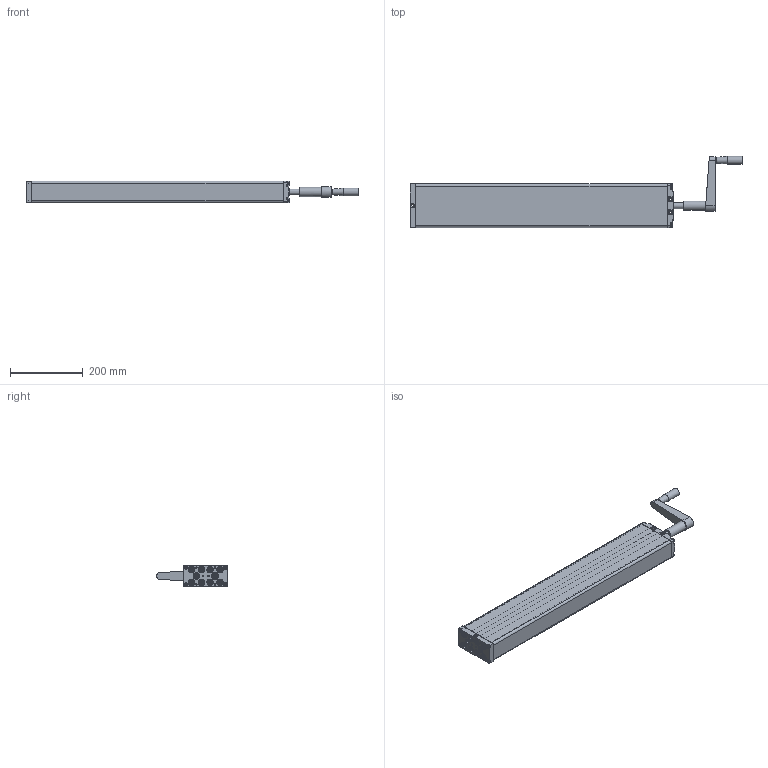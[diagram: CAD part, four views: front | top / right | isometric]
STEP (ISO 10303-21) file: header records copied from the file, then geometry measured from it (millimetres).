
FILE_DESCRIPTION(/* description */ ('Unknown'),/* implementation_level */ '2;1');
FILE_NAME(/* name */ '312.20187 Pumpe PB 0430 W mit Handkurbel',/* time_stamp */ '2016-11-03T15:53:36+01:00',/* author */ ('Unknown'),/* organization */ ('Unknown'),/* preprocessor_version */ 'ST-DEVELOPER v16.7',/* originating_system */ 'DEX',/* authorisation */ $);
FILE_SCHEMA (('AUTOMOTIVE_DESIGN {1 0 10303 214 3 1 1}'));
Products named in the file (22): 102.00187; 115.10025; 125.00031; 115.00007; 142.00021; 125.00021; 113.00005; 128.00001; 125.00052; 126.00013; 125.00053; 127.00014; Handgriff; 142.00013; 125.00145; 115.00140; 126.00006; 122.00040; 119.00045; 126.00036; 142.00057; 142.00017
Assembly tree (38 placements, depth 3):
  102.00187
    115.10025  x10
      125.00031
      115.00007
      142.00021
      125.00021
    113.00005
      128.00001
      125.00052
      126.00013
      125.00053
      127.00014
      Handgriff
    142.00013  x8
    125.00145
    115.00140
      126.00006
      122.00040
    119.00045
    126.00036
    142.00057
    142.00017  x2
Bounding box: 912.75 x 195.5 x 60.3 mm (x, y, z)
Volume: 1031191.2 mm3; surface area: 666024.8 mm2
Topology: 52 solids, 52 shells, 2283 faces, 5202 edges, 3063 vertices
Faces by surface type: plane 823, cylinder 528, cone 386, bspline 380, torus 106, sphere 60
Full cylindrical faces by diameter (mm): 3.5 x10, 4 x2, 4.1 x10, 4.134 x4, 4.2 x11, 4.917 x4, 5 x8, 5.8 x4, 6 x2, 6.8 x1, 6.917 x20, 8 x22, 9 x10, 9.8 x8, 10 x6, 10.4 x1, 10.5 x4, 12.5 x10, 12.8 x1, 13 x31, 13.9 x20, 14 x1, 16 x2, 17 x1, 18 x11, 19 x1, 20.6 x1, 21 x1, 22 x1, 25.5 x1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
Entity records: 63579 total; most frequent: CARTESIAN_POINT 30446, ORIENTED_EDGE 5318, DIRECTION 4753, EDGE_CURVE 2659, AXIS2_PLACEMENT_3D 1852, VERTEX_POINT 1690, FACE_BOUND 1519, EDGE_LOOP 1516
